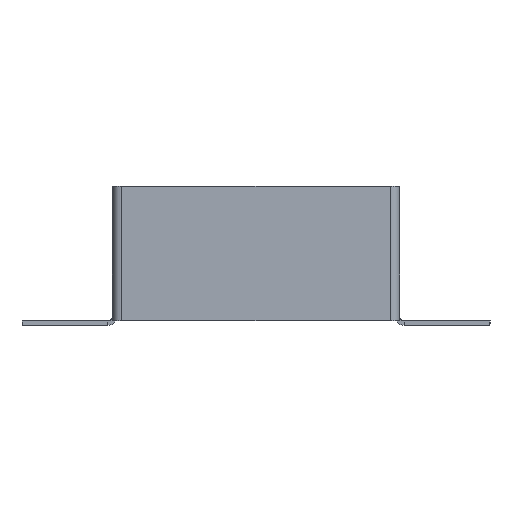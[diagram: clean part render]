
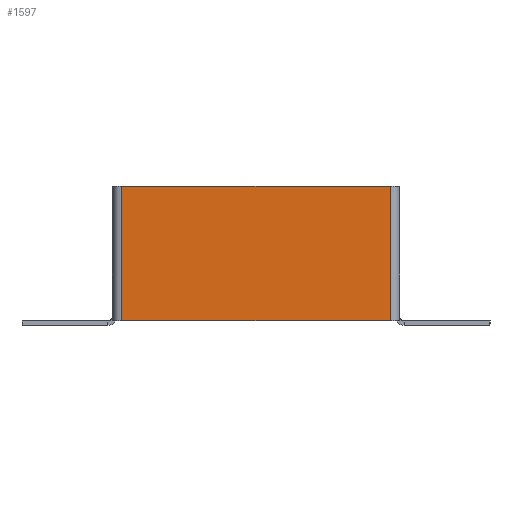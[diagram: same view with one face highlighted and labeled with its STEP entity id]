
A CAD part, front view. The second image highlights one B-rep face of the part: STEP entity #1597.
In plain terms, the highlighted planar face has unit normal (0, -1, 0).
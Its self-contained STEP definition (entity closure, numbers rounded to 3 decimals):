
#570 = CARTESIAN_POINT ( 'NONE',  ( -60., -2., 0. ) ) ;
#779 = EDGE_CURVE ( 'NONE', #8514, #6588, #9245, .T. ) ;
#948 = EDGE_CURVE ( 'NONE', #3397, #8314, #7921, .T. ) ;
#1415 = ORIENTED_EDGE ( 'NONE', *, *, #5888, .T. ) ;
#1468 = CARTESIAN_POINT ( 'NONE',  ( -58., -2., 0. ) ) ;
#1597 = ADVANCED_FACE ( 'NONE', ( #3286 ), #6704, .F. ) ;
#1643 = CARTESIAN_POINT ( 'NONE',  ( 0., -2., 0. ) ) ;
#1851 = ORIENTED_EDGE ( 'NONE', *, *, #948, .F. ) ;
#2138 = LINE ( 'NONE', #3617, #3317 ) ;
#2211 = DIRECTION ( 'NONE',  ( 0., 0., -1. ) ) ;
#2353 = DIRECTION ( 'NONE',  ( 0., 1., 0. ) ) ;
#2530 = VECTOR ( 'NONE', #2211, 1000. ) ;
#2930 = EDGE_CURVE ( 'NONE', #8514, #8314, #2138, .T. ) ;
#3250 = CARTESIAN_POINT ( 'NONE',  ( 58., -2., -58. ) ) ;
#3286 = FACE_OUTER_BOUND ( 'NONE', #7367, .T. ) ;
#3317 = VECTOR ( 'NONE', #9673, 1000. ) ;
#3397 = VERTEX_POINT ( 'NONE', #9585 ) ;
#3617 = CARTESIAN_POINT ( 'NONE',  ( 58., -2., -58. ) ) ;
#4082 = DIRECTION ( 'NONE',  ( 1., 0., 0. ) ) ;
#4365 = ORIENTED_EDGE ( 'NONE', *, *, #779, .F. ) ;
#4463 = CARTESIAN_POINT ( 'NONE',  ( -60., -2., -58. ) ) ;
#4903 = LINE ( 'NONE', #1468, #2530 ) ;
#5014 = ORIENTED_EDGE ( 'NONE', *, *, #2930, .T. ) ;
#5797 = VECTOR ( 'NONE', #6777, 1000. ) ;
#5888 = EDGE_CURVE ( 'NONE', #3397, #6588, #4903, .T. ) ;
#6351 = AXIS2_PLACEMENT_3D ( 'NONE', #1643, #2353, #8960 ) ;
#6588 = VERTEX_POINT ( 'NONE', #6676 ) ;
#6676 = CARTESIAN_POINT ( 'NONE',  ( -58., -2., -58. ) ) ;
#6704 = PLANE ( 'NONE',  #6351 ) ;
#6777 = DIRECTION ( 'NONE',  ( -1., 0., 0. ) ) ;
#6866 = VECTOR ( 'NONE', #4082, 1000. ) ;
#7367 = EDGE_LOOP ( 'NONE', ( #1415, #4365, #5014, #1851 ) ) ;
#7921 = LINE ( 'NONE', #570, #6866 ) ;
#8314 = VERTEX_POINT ( 'NONE', #9634 ) ;
#8514 = VERTEX_POINT ( 'NONE', #3250 ) ;
#8960 = DIRECTION ( 'NONE',  ( 0., 0., 1. ) ) ;
#9245 = LINE ( 'NONE', #4463, #5797 ) ;
#9585 = CARTESIAN_POINT ( 'NONE',  ( -58., -2., 0. ) ) ;
#9634 = CARTESIAN_POINT ( 'NONE',  ( 58., -2., 0. ) ) ;
#9673 = DIRECTION ( 'NONE',  ( 0., 0., 1. ) ) ;
